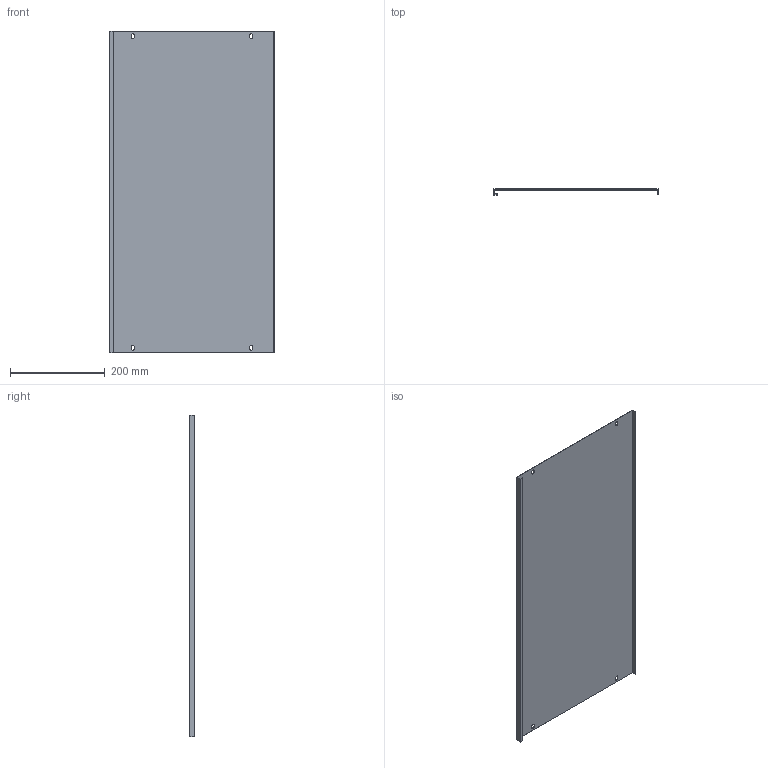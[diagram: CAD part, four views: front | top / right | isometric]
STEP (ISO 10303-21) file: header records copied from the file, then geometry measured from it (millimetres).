
FILE_DESCRIPTION (( 'STEP AP214' ), '1' );
FILE_NAME ('FO-00-PVS-035-080 Ïëàñòðîí ãëóõîé âíóòðåííèé 350õ800.STEP', '2025-08-26T09:59:18', ( '' ), ( '' ), 'SwSTEP 2.0', 'SolidWorks 2023', '' );
FILE_SCHEMA (( 'AUTOMOTIVE_DESIGN' ));
Length unit declared in the file: millimetre
Products named in the file (1): FO-00-PVS-035-080 Пластрон глухой внутренний 350х800
Bounding box: 348 x 12.5 x 679 mm (x, y, z)
Volume: 380562.1 mm3; surface area: 510743.1 mm2
Topology: 1 solids, 1 shells, 42 faces, 120 edges, 80 vertices
Faces by surface type: plane 30, cylinder 12
Entity records: 1407 total; most frequent: CARTESIAN_POINT 243, ORIENTED_EDGE 240, DIRECTION 230, EDGE_CURVE 120, LINE 96, VECTOR 96, VERTEX_POINT 80, AXIS2_PLACEMENT_3D 67
